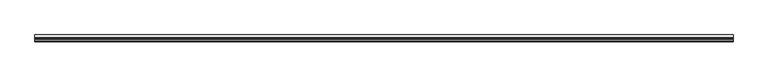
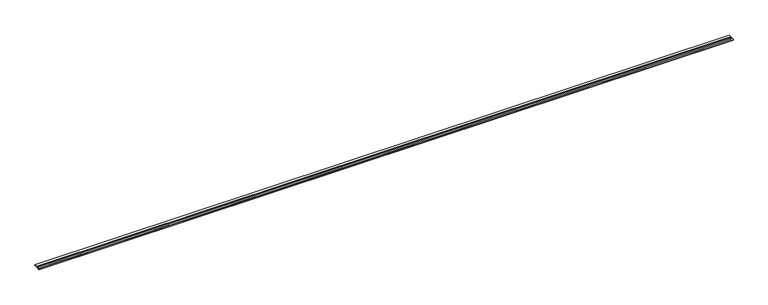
"""IFC4 building model written with IfcOpenShell, lengths in millimetres: slab geometry, ROSA GRES_G49 : Pieza G49_Aqua_Plomo_Anti-Slip."""

import ifcopenshell
import ifcopenshell.guid

model = None  # the IFC model being written
_history = None  # IfcOwnerHistory: only IFC2X3 demands one
_inside = {}  # id of a spatial element -> (the spatial element, [elements in it])
_under = {}  # id of a project, library or spatial element -> (it, [spatial elements below it])
_declared = {}  # id of a project -> (the project, [libraries it declares])
_typed = {}  # id of a type object -> (the type object, [elements of that type])
_made_of = {}  # id of a material, layer set ... -> (it, [elements and type objects made of it])


def new_model(schema):
    """Start an empty IFC model of exactly this schema.

    Asked for "IFC4X3", IfcOpenShell would pick the latest addendum, in which some entities
    have other attributes; the version numbers below select the first issue.
    IFC2X3 requires an IfcOwnerHistory on every rooted entity: one is made here for all.
    """
    global model, _history
    if schema == "IFC4X3":
        model = ifcopenshell.file(schema_version=(4, 3, 0, 0))
    else:
        model = ifcopenshell.file(schema=schema)
    _inside.clear()
    _under.clear()
    _declared.clear()
    _typed.clear()
    _made_of.clear()
    _history = None
    if model.schema == "IFC2X3":
        org = make("IfcOrganization", Name="unknown")
        user = make(
            "IfcPersonAndOrganization",
            ThePerson=make("IfcPerson", FamilyName="unknown"),
            TheOrganization=org,
        )
        app = make(
            "IfcApplication",
            ApplicationDeveloper=org,
            Version="unknown",
            ApplicationFullName="unknown",
            ApplicationIdentifier="unknown",
        )
        _history = make(
            "IfcOwnerHistory",
            OwningUser=user,
            OwningApplication=app,
            ChangeAction="ADDED",
            CreationDate=0,
        )
    return model


def make(cls, **values):
    """One entity of the class cls with the attributes given. An attribute that is None is left unset."""
    return model.create_entity(
        cls, **{name: value for name, value in values.items() if value is not None}
    )


def rooted(cls, **values):
    """An entity with a GlobalId (a new one), such as an element, a storey or a relation."""
    return make(cls, GlobalId=ifcopenshell.guid.new(), OwnerHistory=_history, **values)


def si_unit(unit_type, name, prefix=None):
    """IfcSIUnit, for example si_unit("LENGTHUNIT", "METRE", prefix="MILLI")."""
    return make("IfcSIUnit", UnitType=unit_type, Prefix=prefix, Name=name)


def assignment(units):
    """IfcUnitAssignment: the units of a project."""
    return None if units is None else make("IfcUnitAssignment", Units=units)


def point(xyz):
    """IfcCartesianPoint."""
    return None if xyz is None else make("IfcCartesianPoint", Coordinates=xyz)


def direction(xyz):
    """IfcDirection."""
    return None if xyz is None else make("IfcDirection", DirectionRatios=xyz)


def frame(location, z_axis=None, x_axis=None):
    """IfcAxis2Placement3D, a coordinate frame: its origin and axes. An axis left out is left unset."""
    return make(
        "IfcAxis2Placement3D",
        Location=point(location),
        Axis=direction(z_axis),
        RefDirection=direction(x_axis),
    )


def frame_2d(location, x_axis=None):
    """IfcAxis2Placement2D, a coordinate frame in the plane: its origin and x axis."""
    return make(
        "IfcAxis2Placement2D", Location=point(location), RefDirection=direction(x_axis)
    )


def origin():
    """The frame at (0, 0, 0) with its axes left unset."""
    return frame((0.0, 0.0, 0.0))


def place(relative_to, where):
    """IfcLocalPlacement: puts the frame where relative to a parent placement (None: the world)."""
    return make(
        "IfcLocalPlacement", PlacementRelTo=relative_to, RelativePlacement=where
    )


def context(
    kind, dimensions, precision=None, world=None, true_north=None, identifier=None
):
    """IfcGeometricRepresentationContext, for example the 3D "Model" context."""
    return make(
        "IfcGeometricRepresentationContext",
        ContextIdentifier=identifier,
        ContextType=kind,
        CoordinateSpaceDimension=dimensions,
        Precision=precision,
        WorldCoordinateSystem=world,
        TrueNorth=true_north,
    )


def project(units=None, contexts=None):
    """IfcProject with its units and contexts."""
    return rooted(
        "IfcProject",
        Name="project",
        RepresentationContexts=contexts,
        UnitsInContext=assignment(units),
    )


def spatial(cls, under=None, at=None, **own):
    """A site, building, storey or space (cls), placed at a placement, below another one or the project."""
    s = rooted(cls, ObjectPlacement=at, **own)
    if under is not None:
        _under.setdefault(under.id(), (under, []))[1].append(s)
    return s


def polyline(points):
    """IfcPolyline through the points."""
    return make("IfcPolyline", Points=[point(p) for p in points])


def circle_curve(where, radius):
    """IfcCircle in the frame where."""
    return make("IfcCircle", Position=where, Radius=radius)


def trimmed(basis, trim1, trim2, sense, master):
    """IfcTrimmedCurve: the piece of a basis curve between two trims."""
    return make(
        "IfcTrimmedCurve",
        BasisCurve=basis,
        Trim1=trim1,
        Trim2=trim2,
        SenseAgreement=sense,
        MasterRepresentation=master,
    )


def segment(curve, same_sense, transition):
    """IfcCompositeCurveSegment."""
    return make(
        "IfcCompositeCurveSegment",
        Transition=transition,
        SameSense=same_sense,
        ParentCurve=curve,
    )


def composite_curve(segments, self_intersect=None):
    """IfcCompositeCurve: segments joined end to end."""
    return make("IfcCompositeCurve", Segments=segments, SelfIntersect=self_intersect)


def outline(outer, holes=None, kind="AREA"):
    """IfcArbitraryClosedProfileDef: a profile drawn as a closed curve; with holes, ...WithVoids."""
    if holes is None:
        return make("IfcArbitraryClosedProfileDef", ProfileType=kind, OuterCurve=outer)
    return make(
        "IfcArbitraryProfileDefWithVoids",
        ProfileType=kind,
        OuterCurve=outer,
        InnerCurves=holes,
    )


def extrude(swept, where, along, depth):
    """IfcExtrudedAreaSolid: the profile swept, set in the frame where, extruded along a direction by depth."""
    return make(
        "IfcExtrudedAreaSolid",
        SweptArea=swept,
        Position=where,
        ExtrudedDirection=direction(along),
        Depth=depth,
    )


def shape(context_of_items, identifier, shape_type, items):
    """IfcShapeRepresentation: the items that make up one representation, for example the "Body"."""
    return make(
        "IfcShapeRepresentation",
        ContextOfItems=context_of_items,
        RepresentationIdentifier=identifier,
        RepresentationType=shape_type,
        Items=items,
    )


def source(mapping_origin, context_of_items, identifier, shape_type, items):
    """IfcRepresentationMap: a shape defined once, which mapped items show again and again."""
    return make(
        "IfcRepresentationMap",
        MappingOrigin=mapping_origin,
        MappedRepresentation=shape(context_of_items, identifier, shape_type, items),
    )


def transform(
    local_origin,
    x_axis=None,
    y_axis=None,
    z_axis=None,
    scale=None,
    scale2=None,
    scale3=None,
    uniform=True,
):
    """IfcCartesianTransformationOperator3D, or its non-uniform kind. x_axis, y_axis, z_axis: its Axis1, 2, 3."""
    if uniform:
        return make(
            "IfcCartesianTransformationOperator3D",
            Axis1=direction(x_axis),
            Axis2=direction(y_axis),
            LocalOrigin=point(local_origin),
            Scale=scale,
            Axis3=direction(z_axis),
        )
    return make(
        "IfcCartesianTransformationOperator3DnonUniform",
        Axis1=direction(x_axis),
        Axis2=direction(y_axis),
        LocalOrigin=point(local_origin),
        Scale=scale,
        Axis3=direction(z_axis),
        Scale2=scale2,
        Scale3=scale3,
    )


def mapped(mapping_source, mapping_target):
    """IfcMappedItem: shows the shape of a source again, moved by a transform."""
    return make(
        "IfcMappedItem", MappingSource=mapping_source, MappingTarget=mapping_target
    )


def made_of(thing, what):
    """Note that an element or type object is made of a material, layer set ...; save() writes the relation."""
    if what is not None:
        _made_of.setdefault(what.id(), (what, []))[1].append(thing)
    return thing


def element(
    cls,
    number,
    at=None,
    inside=None,
    cuts=None,
    type_object=None,
    material=None,
    context=None,
    identifier="Body",
    shape_type=None,
    held_by="IfcProductDefinitionShape",
    body=None,
    shapes=None,
    **own,
):
    """One element of the class cls, such as IfcWall. Its Tag is "e" and its number.

    at: its placement. inside: the storey or other place that contains it. cuts: it is an
    opening in that element (IfcRelVoidsElement). A single representation is given by context,
    identifier, shape_type and body (its items); several are given by shapes. held_by: the class
    of the entity that holds the representations. save() writes the other relations.
    """
    e = rooted(cls, Tag="e%d" % number, ObjectPlacement=at, **own)
    if body is not None:
        shapes = [shape(context, identifier, shape_type, body)]
    if shapes is not None:
        e.Representation = make(held_by, Representations=shapes)
    if inside is not None:
        _inside.setdefault(inside.id(), (inside, []))[1].append(e)
    if cuts is not None:
        rooted(
            "IfcRelVoidsElement", RelatingBuildingElement=cuts, RelatedOpeningElement=e
        )
    if type_object is not None:
        _typed.setdefault(type_object.id(), (type_object, []))[1].append(e)
    return made_of(e, material)


def aggregate(whole, parts):
    """IfcRelAggregates: a whole, such as a stair, and the parts it consists of."""
    return rooted("IfcRelAggregates", RelatingObject=whole, RelatedObjects=parts)


def save(model, path):
    """Write the relations noted so far, then the file.

    IfcRelAggregates (storeys below a building ...), IfcRelContainedInSpatialStructure (elements
    in a storey), IfcRelDefinesByType, IfcRelAssociatesMaterial and IfcRelDeclares: one each for
    every whole, place, type object, material and project.
    """
    for whole, parts in _under.values():
        aggregate(whole, parts)
    for where, things in _inside.values():
        rooted(
            "IfcRelContainedInSpatialStructure",
            RelatedElements=things,
            RelatingStructure=where,
        )
    for kind, things in _typed.values():
        rooted("IfcRelDefinesByType", RelatedObjects=things, RelatingType=kind)
    for what, things in _made_of.values():
        rooted("IfcRelAssociatesMaterial", RelatedObjects=things, RelatingMaterial=what)
    for by, libraries in _declared.values():
        rooted("IfcRelDeclares", RelatingContext=by, RelatedDefinitions=libraries)
    model.write(path)


def slab_ae715e0f(model_context):
    return source(origin(), model_context, "Body", "SweptSolid", [
        extrude(outline(composite_curve([segment(polyline([(0.4959854, 174.3946403), (-0.6795727, 188.8372115)]), True, "CONTINUOUS"), segment(trimmed(circle_curve(frame_2d((9.287465, 189.648482)), 10.0), [point((-0.6795727, 188.8372115))], [point((8.4761969, 199.6155199))], False, "CARTESIAN"), True, "CONTINUOUS"), segment(polyline([(8.4761969, 199.6155199), (34.9297931, 201.7687131), (38.3959439, 195.0159662), (41.0138307, 190.7196924), (42.1786827, 188.9557911)]), True, "CONTINUOUS"), segment(trimmed(circle_curve(frame_2d((44.6810926, 190.6083422)), 2.9988298), [point((42.1786827, 188.9557911))], [point((44.9243788, 187.6193972))], True, "CARTESIAN"), True, "CONTINUOUS"), segment(polyline([(44.9243788, 187.6193972), (64.4101321, 189.205447)]), True, "CONTINUOUS"), segment(trimmed(circle_curve(frame_2d((63.9188624, 195.2410459)), 6.0555595), [point((64.4101321, 189.205447))], [point((69.5852402, 193.1051707))], True, "CARTESIAN"), True, "CONTINUOUS"), segment(polyline([(69.5852402, 193.1051707), (69.9836117, 193.8870189), (117.9849268, 197.7941027), (119.1037338, 184.0487594), (38.2820268, 177.4702483)]), True, "CONTINUOUS"), segment(trimmed(circle_curve(frame_2d((27.0041663, 174.9936892)), 11.5465789), [point((38.2820268, 177.4702483))], [point((15.4742511, 175.6138015))], True, "CARTESIAN"), True, "CONTINUOUS"), segment(polyline([(15.4742511, 175.6138015), (0.4959854, 174.3946403)]), True, "CONTINUOUS")], self_intersect=False)), frame((0.0, 0.0, 0.0), z_axis=(1.0, 0.0, 0.0), x_axis=(0.0, 1.0, 0.0)), (0.0, 0.0, 1.0), 12000.25),
    ])


if __name__ == "__main__":
    model = new_model("IFC4")
    model_context = context("Model", 3, world=origin())
    ifc_project = project(units=[si_unit("LENGTHUNIT", "METRE", prefix="MILLI")], contexts=[model_context])
    site = spatial("IfcSite", under=ifc_project)
    building = spatial("IfcBuilding", under=site)
    placement = place(None, origin())
    slab_shape = slab_ae715e0f(model_context)
    element("IfcSlab", 1, ObjectType="ROSA GRES_G49 : Pieza G49_Aqua_Plomo_Anti-Slip", at=placement, inside=building, context=model_context, shape_type="MappedRepresentation", body=[
        mapped(slab_shape, transform((0.0, 0.0, 0.0), x_axis=(1.0, 0.0, 0.0), y_axis=(0.0, 1.0, 0.0), z_axis=(0.0, 0.0, 1.0))),
    ])
    save(model, "model.ifc")
